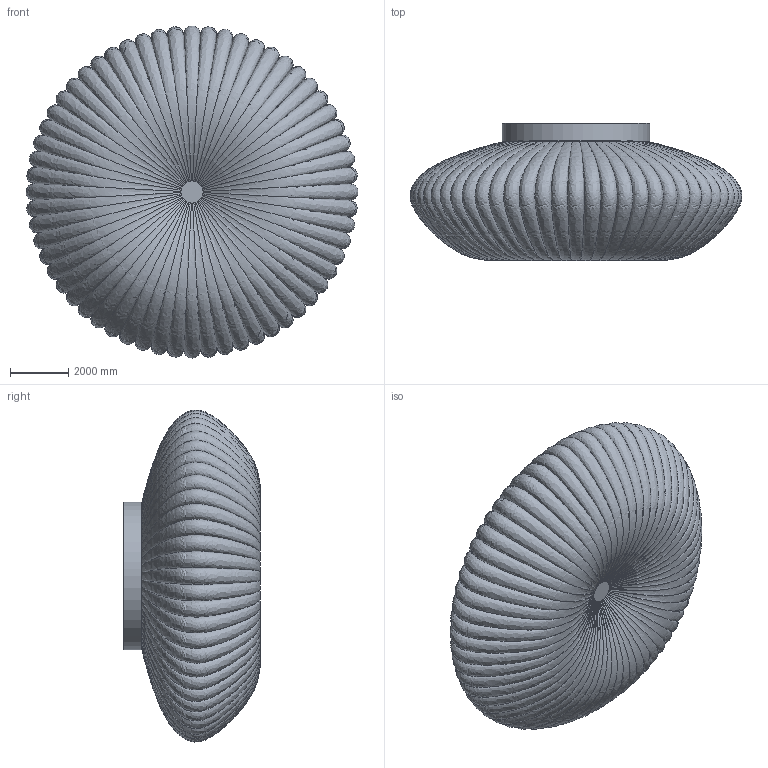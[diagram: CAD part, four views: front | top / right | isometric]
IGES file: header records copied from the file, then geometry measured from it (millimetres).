
Global section: file name: Bobby Ceiling Light-∅17.7″,48H; native system: AutoCAD 2022 - 简体中文 (Simplified Chinese); preprocessor: Autodesk Translation Framework DWG producer (atf_dwg_producer); organization: unknown; date: 20250325.114707; units: inch
Bounding box: 11424.84 x 4713.04 x 11424.84 mm (x, y, z)
Volume: 18142296042.9 mm3; surface area: 621069392.8 mm2
Topology: 2 solids, 2 shells, 130 faces, 489 edges, 366 vertices
Faces by surface type: bspline 130
